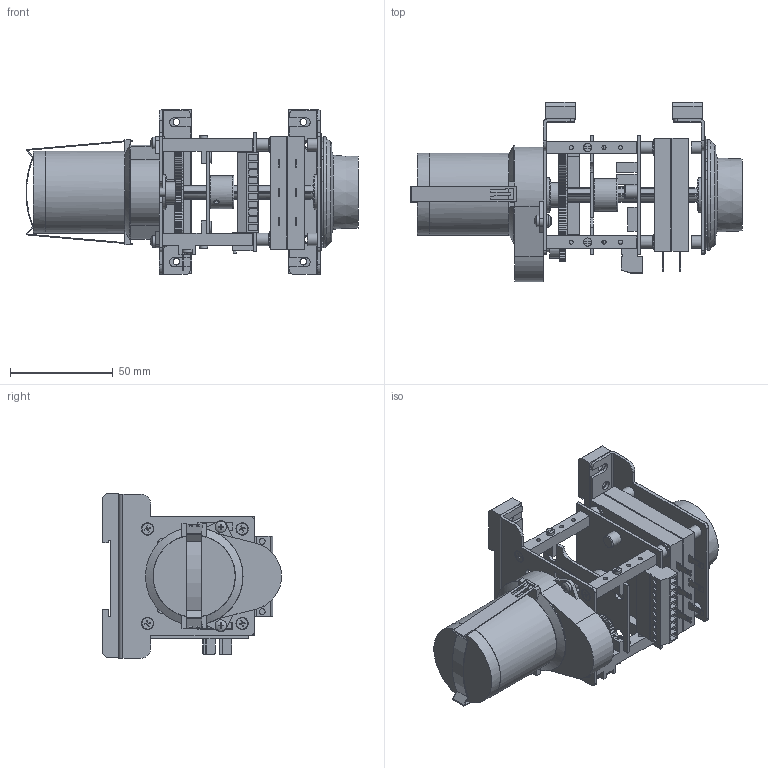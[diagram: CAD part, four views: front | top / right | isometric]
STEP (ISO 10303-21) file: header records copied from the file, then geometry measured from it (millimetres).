
FILE_DESCRIPTION(/* description */ (''),/* implementation_level */ '2;1');
FILE_NAME(/* name */ 'C:\Users\CAD-4\Desktop\MR267_Rail-Side.stp',/* time_stamp */ '2019-10-08T10:58:33+02:00',/* author */ ('CAD-4'),/* organization */ (''),/* preprocessor_version */ 'ST-DEVELOPER v16.13',/* originating_system */ 'Autodesk Inventor 2018',/* authorisation */ '');
FILE_SCHEMA (('AUTOMOTIVE_DESIGN { 1 0 10303 214 3 1 1 }'));
Products named in the file (1): Bauteil2
Bounding box: 161.61 x 87.19 x 80.2 mm (x, y, z)
Volume: 217976.6 mm3; surface area: 98039.6 mm2
Topology: 1 solids, 20 shells, 3223 faces, 9074 edges, 6002 vertices
Faces by surface type: plane 1978, cylinder 1150, cone 68, torus 23, sphere 4
Full cylindrical faces by diameter (mm): 1.5 x9, 2 x4, 2.013 x20, 2.05 x2, 2.459 x10, 2.5 x8, 2.6 x2, 2.8 x10, 3 x16, 3.15 x8, 3.2 x4, 3.3 x4, 3.5 x12, 3.9 x4, 3.95 x4, 4 x6, 4.5 x13, 5.5 x8, 5.6 x2, 5.8 x4, 6 x15, 6.4 x1, 6.5 x5, 7.5 x8, 7.8 x1, 8 x3, 10 x2, 12 x2, 15 x5, 16 x1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
Entity records: 107485 total; most frequent: CARTESIAN_POINT 19368, DIRECTION 18266, ORIENTED_EDGE 17370, EDGE_CURVE 8684, AXIS2_PLACEMENT_3D 6454, VERTEX_POINT 5892, LINE 5358, VECTOR 5358
